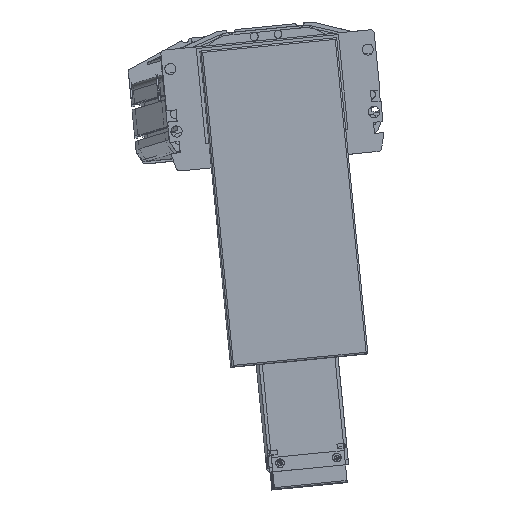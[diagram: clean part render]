
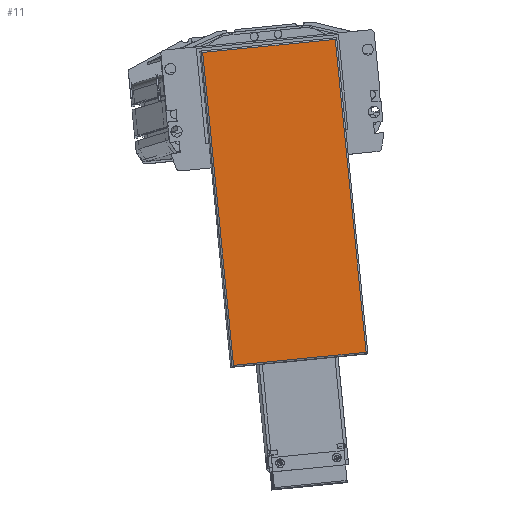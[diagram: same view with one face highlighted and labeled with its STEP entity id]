
A CAD part, top view. The second image highlights one B-rep face of the part: STEP entity #11.
In plain terms, the highlighted planar face has unit normal (0.017, 0.003, 1) as drawn and (0, 0, 1) by its records, which use the part's own axes.
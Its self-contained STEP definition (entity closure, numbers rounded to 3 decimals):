
#11 = ADVANCED_FACE ( 'NONE', ( #25303 ), #25320, .T. ) ;
#30 = ORIENTED_EDGE ( 'NONE', *, *, #64830, .T. ) ;
#38 = ORIENTED_EDGE ( 'NONE', *, *, #64870, .T. ) ;
#40 = ORIENTED_EDGE ( 'NONE', *, *, #64874, .T. ) ;
#25286 = DIRECTION ( 'NONE',  ( 1., 0., 0. ) ) ;
#25287 = DIRECTION ( 'NONE',  ( 0., 0., 1. ) ) ;
#25288 = CARTESIAN_POINT ( 'NONE',  ( -42.95, -126.25, 44. ) ) ;
#25297 = AXIS2_PLACEMENT_3D ( 'NONE', #25288, #25287, #25286 ) ;
#25303 = FACE_OUTER_BOUND ( 'NONE', #64814, .T. ) ;
#25320 = PLANE ( 'NONE',  #25297 ) ;
#34475 = DIRECTION ( 'NONE',  ( -1., 0., 0. ) ) ;
#34477 = VECTOR ( 'NONE', #34475, 1000. ) ;
#34478 = CARTESIAN_POINT ( 'NONE',  ( -42.95, 72.75, 44. ) ) ;
#34479 = LINE ( 'NONE', #34478, #34477 ) ;
#34530 = CARTESIAN_POINT ( 'NONE',  ( 41.95, 72.75, 44. ) ) ;
#34544 = CARTESIAN_POINT ( 'NONE',  ( -41.95, -125.25, 44. ) ) ;
#34599 = CARTESIAN_POINT ( 'NONE',  ( -41.95, 72.75, 44. ) ) ;
#42124 = VECTOR ( 'NONE', #42129, 1000. ) ;
#42129 = DIRECTION ( 'NONE',  ( 0., -1., 0. ) ) ;
#42130 = CARTESIAN_POINT ( 'NONE',  ( -41.95, -126.25, 44. ) ) ;
#42238 = LINE ( 'NONE', #42130, #42124 ) ;
#42322 = VECTOR ( 'NONE', #42328, 1000. ) ;
#42324 = LINE ( 'NONE', #42326, #42322 ) ;
#42326 = CARTESIAN_POINT ( 'NONE',  ( 41.95, -126.25, 44. ) ) ;
#42328 = DIRECTION ( 'NONE',  ( 0., 1., 0. ) ) ;
#42365 = DIRECTION ( 'NONE',  ( 1., 0., 0. ) ) ;
#42366 = VECTOR ( 'NONE', #42365, 1000. ) ;
#42367 = CARTESIAN_POINT ( 'NONE',  ( -42.95, -125.25, 44. ) ) ;
#42368 = LINE ( 'NONE', #42367, #42366 ) ;
#42402 = CARTESIAN_POINT ( 'NONE',  ( 41.95, -125.25, 44. ) ) ;
#58649 = EDGE_CURVE ( 'NONE', #59036, #59361, #34479, .T. ) ;
#59036 = VERTEX_POINT ( 'NONE', #34530 ) ;
#59078 = VERTEX_POINT ( 'NONE', #34544 ) ;
#59361 = VERTEX_POINT ( 'NONE', #34599 ) ;
#64814 = EDGE_LOOP ( 'NONE', ( #40, #38, #64890, #30 ) ) ;
#64830 = EDGE_CURVE ( 'NONE', #59361, #59078, #42238, .T. ) ;
#64870 = EDGE_CURVE ( 'NONE', #64889, #59036, #42324, .T. ) ;
#64874 = EDGE_CURVE ( 'NONE', #59078, #64889, #42368, .T. ) ;
#64889 = VERTEX_POINT ( 'NONE', #42402 ) ;
#64890 = ORIENTED_EDGE ( 'NONE', *, *, #58649, .T. ) ;
